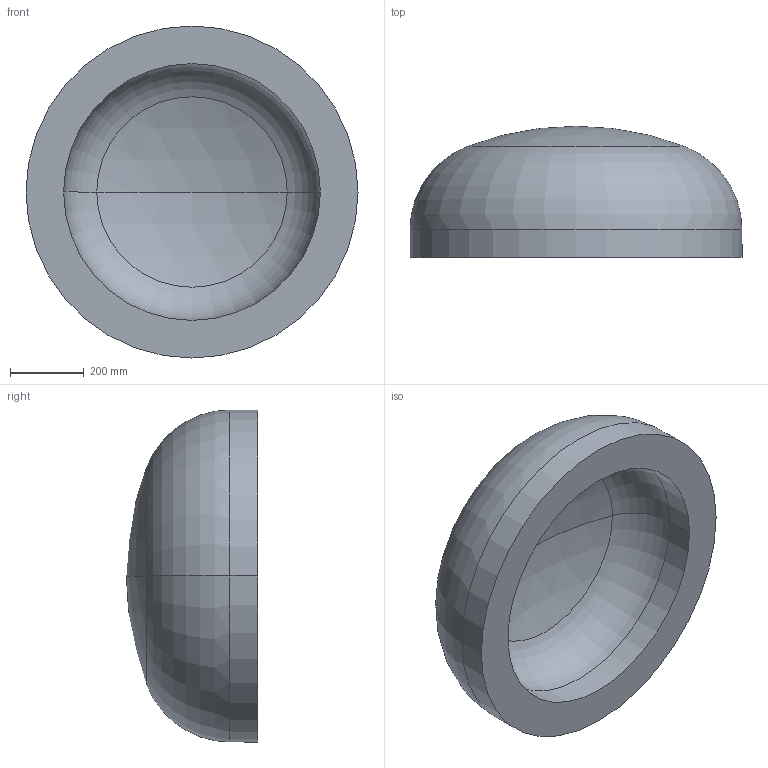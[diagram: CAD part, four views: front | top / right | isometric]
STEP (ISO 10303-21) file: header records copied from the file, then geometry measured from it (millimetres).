
FILE_DESCRIPTION (( 'STEP AP203' ), '1' );
FILE_NAME ('DIN 28013 Korbbogenform_-_Boden DIN 28013 - 900 x 75 - I - s=102.step', '2016-07-01T08:38:35', ( '' ), ( '' ), 'SwSTEP 2.0', 'SolidWorks 2013', '' );
FILE_SCHEMA (( 'CONFIG_CONTROL_DESIGN' ));
Length unit declared in the file: millimetre
Products named in the file (1): DIN 28013 Korbbogenform_-_Boden DIN 28013 - 900 x 75 - I - s=102
Bounding box: 900 x 355.58 x 900 mm (x, y, z)
Volume: 97555093.7 mm3; surface area: 2190347.9 mm2
Topology: 1 solids, 1 shells, 13 faces, 24 edges, 14 vertices
Faces by surface type: torus 4, cylinder 4, sphere 4, plane 1
Entity records: 407 total; most frequent: DIRECTION 72, CARTESIAN_POINT 52, ORIENTED_EDGE 48, AXIS2_PLACEMENT_3D 34, EDGE_CURVE 24, CIRCLE 20, EDGE_LOOP 14, VERTEX_POINT 14
